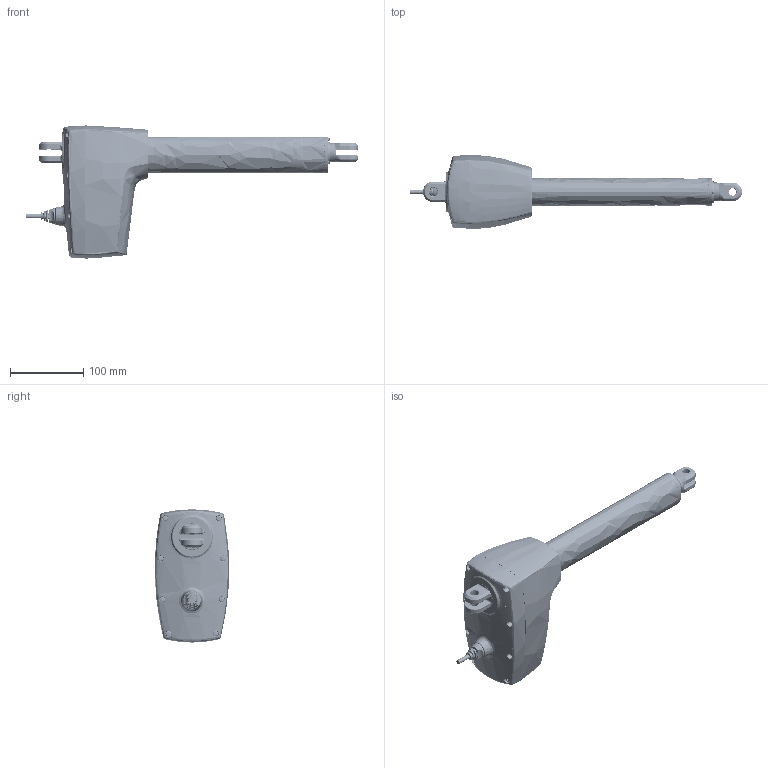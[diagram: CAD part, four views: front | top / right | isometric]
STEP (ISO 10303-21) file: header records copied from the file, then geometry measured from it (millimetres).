
FILE_DESCRIPTION (( 'STEP AP203' ), '1' );
FILE_NAME ('3D_TA51_無手轉.STEP', '2023-10-02T09:22:35', ( '' ), ( '' ), 'SwSTEP 2.0', 'SolidWorks 2015', '' );
FILE_SCHEMA (( 'CONFIG_CONTROL_DESIGN' ));
Length unit declared in the file: millimetre
Products named in the file (16): 三維零件圖-31801-010-上端接頭-B; M3-10-蹟緲; 三維零件圖-40511-139-插頭-A; 三維零件圖-31605-1350-外殼左蓋-A; 三維零件圖-32209-57-外管-B; 三維零件圖-31905-173-NUT-E; 三維零件圖-31605-1351-外殼右蓋-A; 三維零件圖-33610-004-O形環-A; 三維零件圖-32109-2132-287內管-0; 3D_TA51_無手轉; 三維零件圖-33610-060-O形環-A; 三維零件圖-33112-012-防擺環-G; 三維零件圖-33610-143-O形環-A; 三維零件圖-31801-127-下端接頭-A; 三維零件圖-32505-036-防拉扣-A; 三維零件圖-33903-003-32-自攻螺絲-0
Assembly tree (24 placements, depth 2):
  3D_TA51_無手轉
    三維零件圖-31801-127-下端接頭-A
    三維零件圖-32209-57-外管-B
    三維零件圖-32109-2132-287內管-0
    三維零件圖-33112-012-防擺環-G
    M3-10-蹟緲  x3
    三維零件圖-33903-003-32-自攻螺絲-0  x8
    三維零件圖-33610-060-O形環-A
    三維零件圖-33610-143-O形環-A
    三維零件圖-31905-173-NUT-E
    三維零件圖-31801-010-上端接頭-B
    三維零件圖-40511-139-插頭-A
    三維零件圖-32505-036-防拉扣-A
    三維零件圖-31605-1350-外殼左蓋-A
    三維零件圖-31605-1351-外殼右蓋-A
    三維零件圖-33610-004-O形環-A
Bounding box: 454.6 x 101.96 x 182.49 mm (x, y, z)
Volume: 463237.8 mm3; surface area: 399156.7 mm2
Topology: 29 solids, 38 shells, 5396 faces, 14102 edges, 8917 vertices
Faces by surface type: plane 1783, cylinder 1734, bspline 1121, cone 444, torus 293, sphere 21
Entity records: 276576 total; most frequent: CARTESIAN_POINT 178687, ORIENTED_EDGE 22650, DIRECTION 16299, EDGE_CURVE 11325, VERTEX_POINT 7198, AXIS2_PLACEMENT_3D 5914, EDGE_LOOP 4609, LINE 4471
